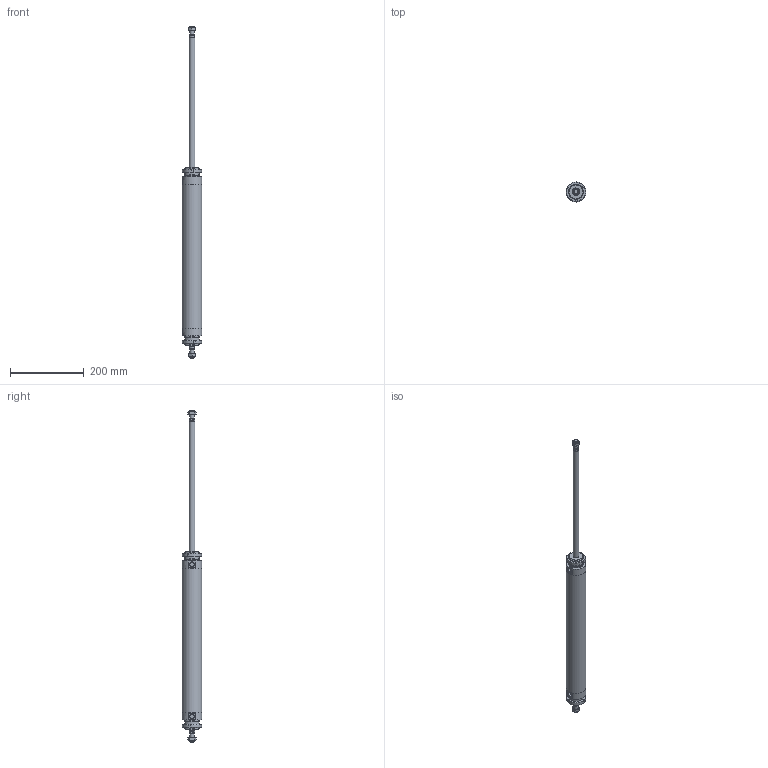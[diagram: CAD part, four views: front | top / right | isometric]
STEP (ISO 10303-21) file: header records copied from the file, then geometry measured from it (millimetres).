
FILE_DESCRIPTION(/* description */ (''),/* implementation_level */ '2;1');
FILE_NAME(/* name */ 'I:\Area Tecnica\Documenti\A-Manieri\_Inventor\12X\12X#S_###_####_#_#\12XCS_050_0350_#_#.stp',/* time_stamp */ '2015-05-08T14:19:25+02:00',/* author */ ('maniean1'),/* organization */ ('Pneumax S.p.A.'),/* preprocessor_version */ 'ST-DEVELOPER v15.2',/* originating_system */ 'Autodesk Inventor 2014',/* authorisation */ '');
FILE_SCHEMA (('AUTOMOTIVE_DESIGN { 1 0 10303 214 3 1 1 }'));
Length unit declared in the file: millimetre
Products named in the file (6): C1250_619-0350; 12X50_604; SP12X50_0350; 12X_50_11; G12X_050_05; 12XCS_050_0350_#_#
Bounding box: 54 x 54 x 902 mm (x, y, z)
Volume: 533438.5 mm3; surface area: 218582.4 mm2
Topology: 8 solids, 8 shells, 133 faces, 303 edges, 194 vertices
Faces by surface type: plane 66, cone 34, cylinder 33
Full cylindrical faces by diameter (mm): 10.2 x2, 11.4 x2, 12 x4, 14 x2, 15.6 x2, 16 x2, 38.2 x2, 40 x6, 50 x2, 54 x3
Entity records: 2300 total; most frequent: CARTESIAN_POINT 435, DIRECTION 388, ORIENTED_EDGE 310, AXIS2_PLACEMENT_3D 166, EDGE_CURVE 155, EDGE_LOOP 130, VERTEX_POINT 117, ADVANCED_FACE 85
